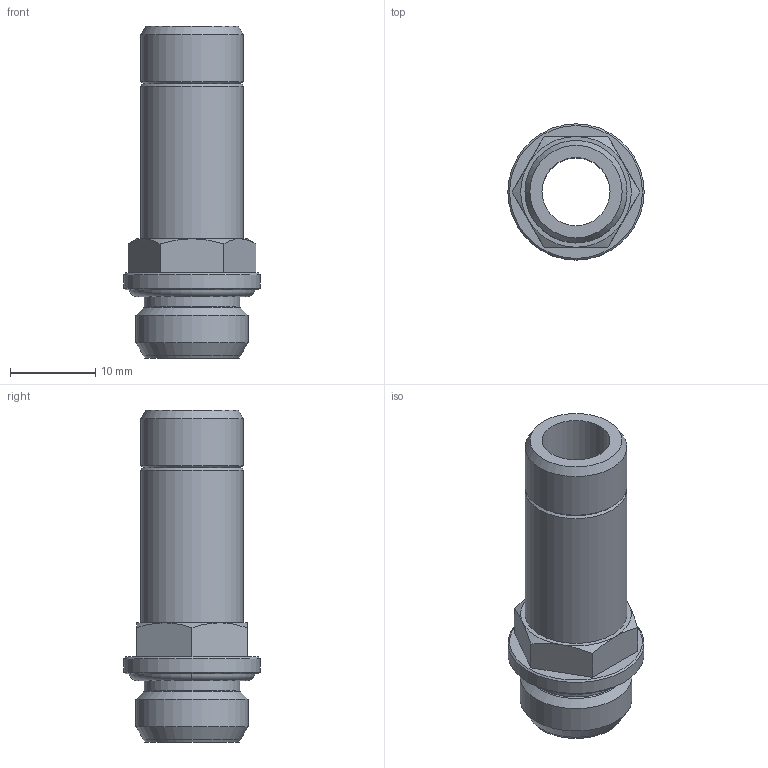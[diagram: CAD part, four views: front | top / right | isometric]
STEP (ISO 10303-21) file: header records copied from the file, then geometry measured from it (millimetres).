
FILE_DESCRIPTION(('Bauteilbeschreibung','HiCAD-Model','HiCAD-STEP-TRANSLATION','Bauteilbeschreibung'),'2;1');
FILE_NAME('B:/ABGLEICH/ZEICHNUNGEN/STEP FÜR INTERNET/STEP/IPSO 06/200620_IPSO_06_12_1-4.STP','2012-03-02T07:43:55+00:00',('Konstrukteur'),('Konstrukteur Firma GmbH'),' HiCAD neXt 2008, Step 3.1.1401.2J ','HiCAD neXt 2008','confidential');
FILE_SCHEMA(('AUTOMOTIVE_DESIGN { 1 2 10303 214 0 1 1 1 }'));
Length unit declared in the file: millimetre
Products named in the file (5): A00620_IPSO_06_12_1_4; A00620; A006200; G 1_4; OR 11_11X1_78
Assembly tree (4 placements, depth 3):
  A00620_IPSO_06_12_1_4
    A00620
    A006200
      G 1_4
    OR 11_11X1_78
Bounding box: 16 x 16 x 39 mm (x, y, z)
Volume: 2829.2 mm3; surface area: 3489.6 mm2
Topology: 3 solids, 3 shells, 42 faces, 89 edges, 53 vertices
Faces by surface type: cone 16, plane 12, cylinder 8, torus 6
Full cylindrical faces by diameter (mm): 8 x1, 11.2 x1, 11.445 x2, 12 x2, 13.157 x1, 16 x1
Entity records: 1369 total; most frequent: DIRECTION 190, CARTESIAN_POINT 184, ORIENTED_EDGE 126, AXIS2_PLACEMENT_3D 89, EDGE_LOOP 68, EDGE_CURVE 63, COLOUR_RGB 58, PRESENTATION_STYLE_ASSIGNMENT 58
